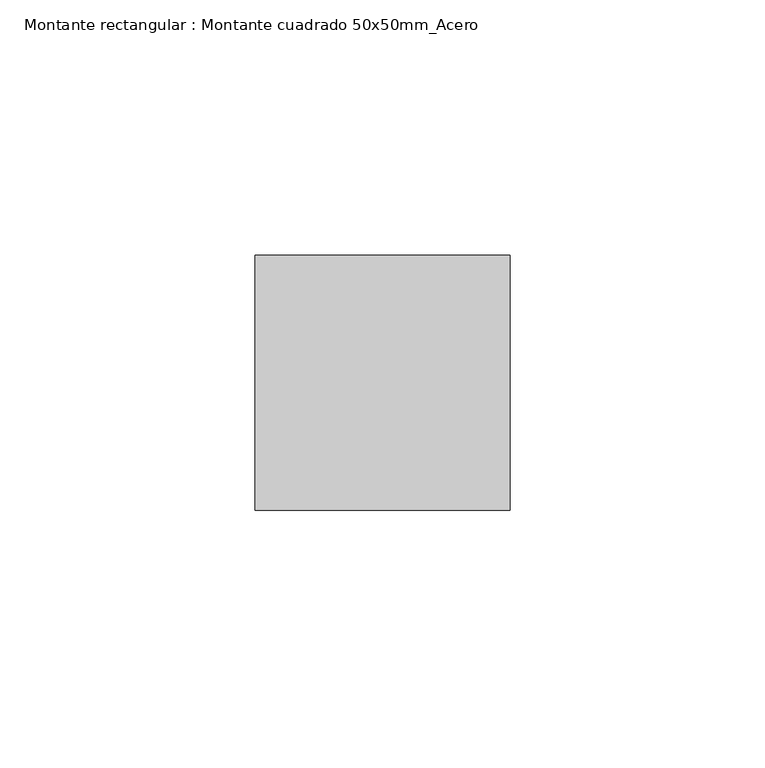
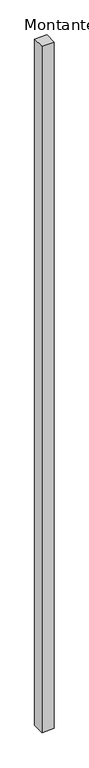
"""IFC4 building model written with IfcOpenShell, lengths in millimetres: member geometry, Montante rectangular : Montante cuadrado 50x50mm_Acero."""

from ifc_helpers import new_model, si_unit, frame, origin, place, context, project, spatial, polyline, outline, extrude, source, transform, mapped, element, save


def montante_rectangular_montante_cuadrado_50x50mm_acero_d908f537(model_context):
    return source(origin(), model_context, "Body", "SweptSolid", [
        extrude(outline(polyline([(0.0, 0.0), (-50.0, 0.0), (-50.0, 50.0), (0.0, 50.0), (0.0, 0.0)])), frame((0.0, 0.0, -2925.0), z_axis=(0.0, 0.0, 1.0), x_axis=(1.0, 0.0, 0.0)), (0.0, 0.0, 1.0), 2925.0),
    ])


if __name__ == "__main__":
    model = new_model("IFC4")
    model_context = context("Model", 3, world=origin())
    ifc_project = project(units=[si_unit("LENGTHUNIT", "METRE", prefix="MILLI")], contexts=[model_context])
    site = spatial("IfcSite", under=ifc_project)
    building = spatial("IfcBuilding", under=site)
    placement = place(None, origin())
    montante_rectangular_montante_cuadrado_50x50mm_acero_shape = montante_rectangular_montante_cuadrado_50x50mm_acero_d908f537(model_context)
    element("IfcMember", 1, ObjectType="Montante rectangular : Montante cuadrado 50x50mm_Acero", at=placement, inside=building, context=model_context, shape_type="MappedRepresentation", body=[
        mapped(montante_rectangular_montante_cuadrado_50x50mm_acero_shape, transform((0.0, 0.0, 0.0), x_axis=(1.0, 0.0, 0.0), y_axis=(0.0, 1.0, 0.0), z_axis=(0.0, 0.0, 1.0))),
    ])
    save(model, "model.ifc")
